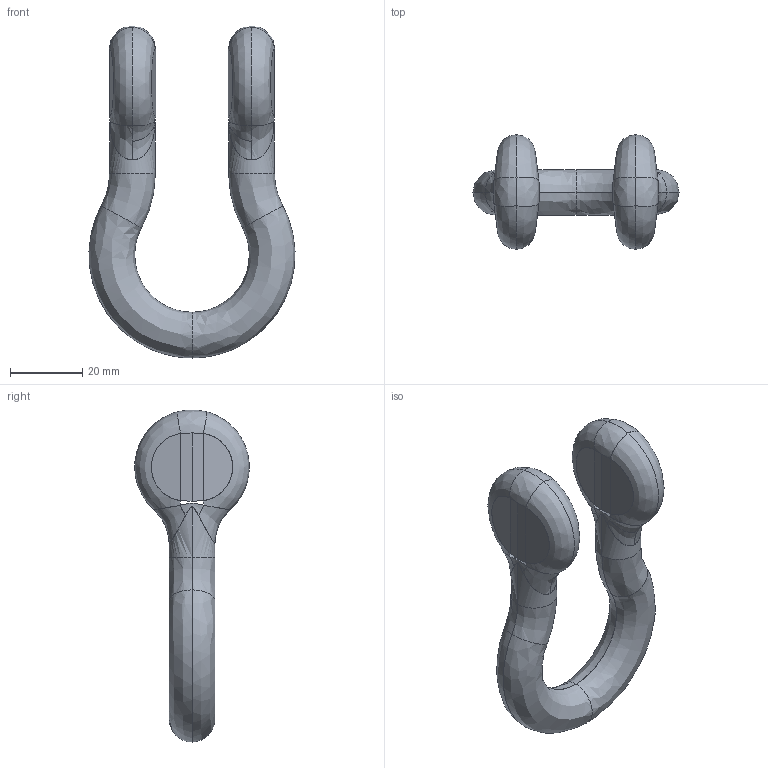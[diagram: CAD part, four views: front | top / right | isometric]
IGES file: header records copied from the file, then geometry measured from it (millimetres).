
Start section: SolidWorks IGES file using analytic representation for surfaces
Global section: file name: C:\Users\h7g\Desktop\2021 Manuals\Surface Repair_NEW.IGS; native system: SolidWorks 2021; preprocessor: SolidWorks 2021; author: H7G; date: 200809.153759; units: millimetre
Bounding box: 57.11 x 31.73 x 92.02 mm (x, y, z)
Surface area: 9708.3 mm2 (no closed solid volume)
Topology: 0 solids, 0 shells, 56 faces, 534 edges, 534 vertices
Faces by surface type: bspline 56
